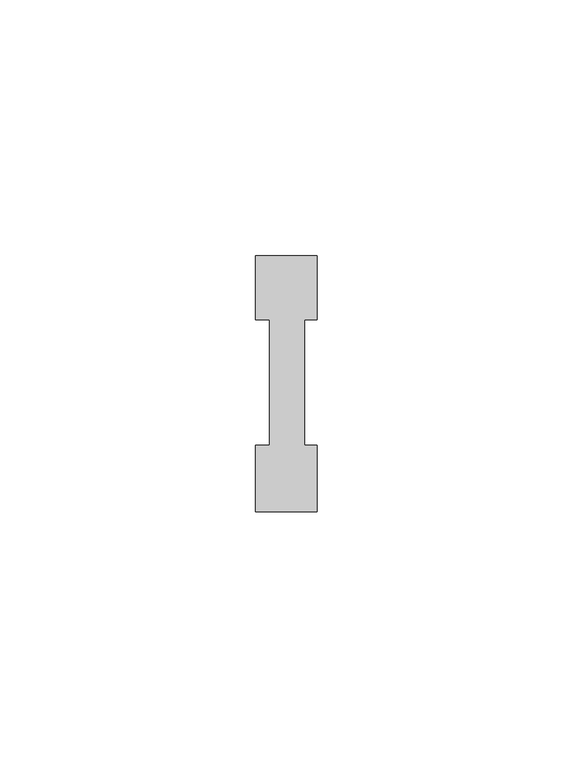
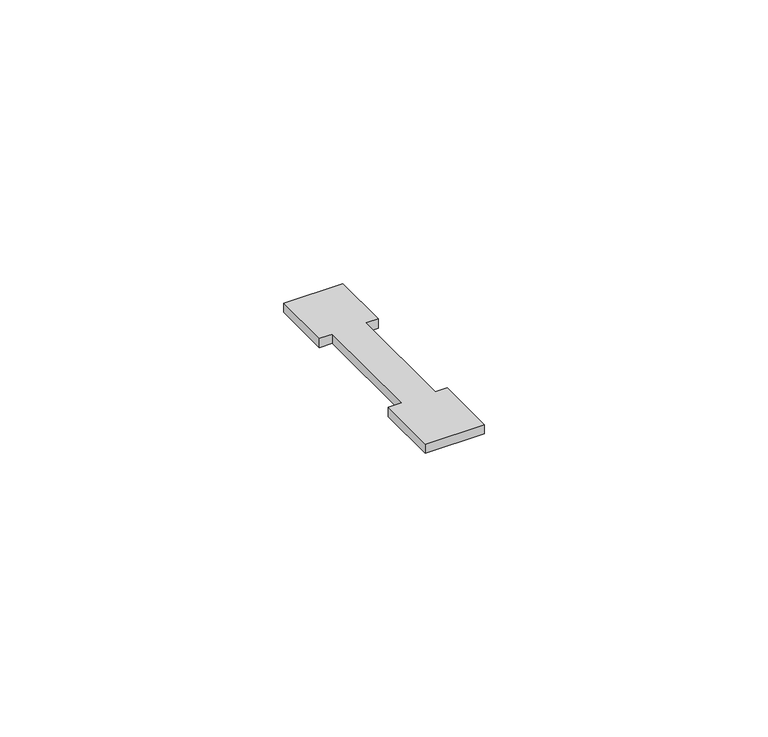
"""IFC4 building model written with IfcOpenShell, lengths in millimetres: duct fitting geometry, DLP Держатель кабеля (скоба) : DLP Держатель кабеля (скоба)."""

from ifc_helpers import new_model, si_unit, origin, origin_with_axes, place, context, project, spatial, polyline, outline, extrude, source, transform, mapped, element, save


def duct_fitting_39125e1a(model_context):
    return source(origin(), model_context, "Body", "SweptSolid", [
        extrude(outline(polyline([(-6.0, 12.5), (-6.0, 25.0), (6.0, 25.0), (6.0, 12.5), (3.4820113, 12.5), (3.4820113, -11.9727674), (6.0, -11.9727674), (6.0, -25.0), (-6.0, -25.0), (-6.0, -11.9727674), (-3.3298276, -11.9727674), (-3.3298276, 12.5), (-6.0, 12.5)])), origin_with_axes(), (0.0, 0.0, 1.0), 2.0),
    ])


if __name__ == "__main__":
    model = new_model("IFC4")
    model_context = context("Model", 3, world=origin())
    ifc_project = project(units=[si_unit("LENGTHUNIT", "METRE", prefix="MILLI")], contexts=[model_context])
    site = spatial("IfcSite", under=ifc_project)
    building = spatial("IfcBuilding", under=site)
    placement = place(None, origin())
    duct_fitting_shape = duct_fitting_39125e1a(model_context)
    element("IfcDuctFitting", 1, ObjectType="DLP Держатель кабеля (скоба) : DLP Держатель кабеля (скоба)", at=placement, inside=building, context=model_context, shape_type="MappedRepresentation", body=[
        mapped(duct_fitting_shape, transform((0.0, 0.0, 0.0), x_axis=(1.0, 0.0, 0.0), y_axis=(0.0, 1.0, 0.0), z_axis=(0.0, 0.0, 1.0))),
    ])
    save(model, "model.ifc")
